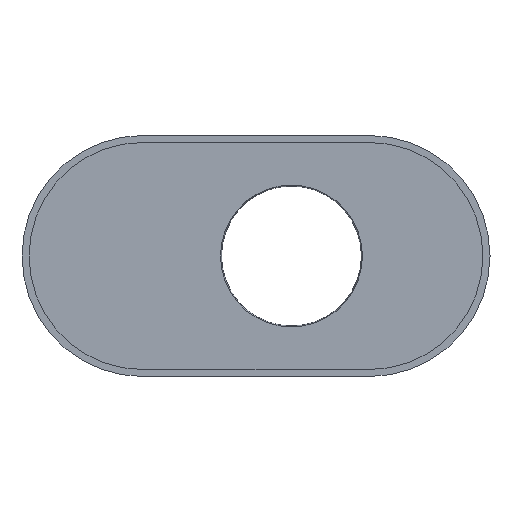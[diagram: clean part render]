
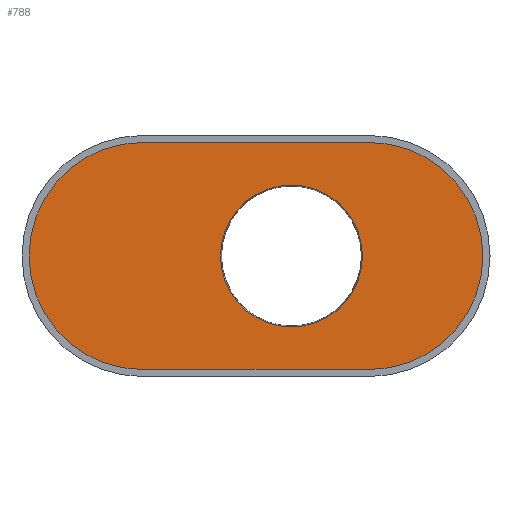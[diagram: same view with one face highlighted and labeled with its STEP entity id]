
A CAD part, front view. The second image highlights one B-rep face of the part: STEP entity #788.
In plain terms, the highlighted planar face has unit normal (0, 1, 0).
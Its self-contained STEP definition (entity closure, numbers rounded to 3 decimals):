
#49=FACE_BOUND('',#105,.T.);
#71=FACE_OUTER_BOUND('',#104,.T.);
#104=EDGE_LOOP('',(#680,#681,#682,#683));
#105=EDGE_LOOP('',(#684));
#159=LINE('',#1486,#211);
#160=LINE('',#1490,#212);
#211=VECTOR('',#1161,32.);
#212=VECTOR('',#1164,32.);
#267=CIRCLE('',#937,16.);
#268=CIRCLE('',#938,16.);
#269=CIRCLE('',#939,10.);
#394=VERTEX_POINT('',#1484);
#395=VERTEX_POINT('',#1485);
#396=VERTEX_POINT('',#1487);
#397=VERTEX_POINT('',#1489);
#398=VERTEX_POINT('',#1492);
#537=EDGE_CURVE('',#394,#395,#159,.T.);
#538=EDGE_CURVE('',#395,#396,#267,.T.);
#539=EDGE_CURVE('',#396,#397,#160,.T.);
#540=EDGE_CURVE('',#397,#394,#268,.T.);
#541=EDGE_CURVE('',#398,#398,#269,.T.);
#680=ORIENTED_EDGE('',*,*,#537,.T.);
#681=ORIENTED_EDGE('',*,*,#538,.T.);
#682=ORIENTED_EDGE('',*,*,#539,.T.);
#683=ORIENTED_EDGE('',*,*,#540,.T.);
#684=ORIENTED_EDGE('',*,*,#541,.T.);
#735=PLANE('',#936);
#788=ADVANCED_FACE('',(#71,#49),#735,.T.);
#936=AXIS2_PLACEMENT_3D('',#1483,#1159,#1160);
#937=AXIS2_PLACEMENT_3D('',#1488,#1162,#1163);
#938=AXIS2_PLACEMENT_3D('',#1491,#1165,#1166);
#939=AXIS2_PLACEMENT_3D('',#1493,#1167,#1168);
#1159=DIRECTION('center_axis',(0.,1.,0.));
#1160=DIRECTION('ref_axis',(0.,0.,1.));
#1161=DIRECTION('',(-1.,0.,0.));
#1162=DIRECTION('center_axis',(0.,1.,0.));
#1163=DIRECTION('ref_axis',(0.,0.,-1.));
#1164=DIRECTION('',(1.,0.,0.));
#1165=DIRECTION('center_axis',(0.,1.,0.));
#1166=DIRECTION('ref_axis',(0.,0.,
1.));
#1167=DIRECTION('center_axis',(0.,-1.,0.));
#1168=DIRECTION('ref_axis',(0.,0.,
-1.));
#1483=CARTESIAN_POINT('Origin',(-16.384,10.,0.));
#1484=CARTESIAN_POINT('',(32.,10.,-16.));
#1485=CARTESIAN_POINT('',(0.,10.,-16.));
#1486=CARTESIAN_POINT('',(32.,10.,-16.));
#1487=CARTESIAN_POINT('',(0.,10.,16.));
#1488=CARTESIAN_POINT('Origin',(0.,10.,0.));
#1489=CARTESIAN_POINT('',(32.,10.,16.));
#1490=CARTESIAN_POINT('',(0.,10.,16.));
#1491=CARTESIAN_POINT('Origin',(32.,10.,0.));
#1492=CARTESIAN_POINT('',(21.,10.,10.));
#1493=CARTESIAN_POINT('Origin',(21.,10.,0.));
